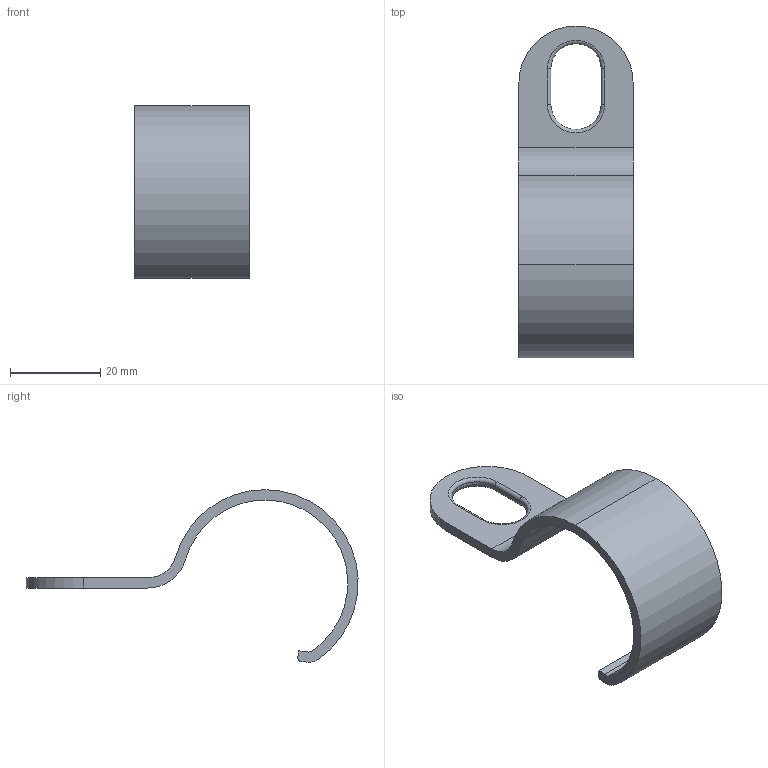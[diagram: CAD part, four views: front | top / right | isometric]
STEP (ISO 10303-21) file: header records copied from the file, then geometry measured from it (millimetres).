
FILE_DESCRIPTION (( 'STEP AP214' ), '1' );
FILE_NAME ('21208.STEP', '2017-07-06T18:04:57', ( 'AIMCO' ), ( '' ), 'SwSTEP 2.0', 'SolidWorks 2017', '' );
FILE_SCHEMA (( 'AUTOMOTIVE_DESIGN' ));
Length unit declared in the file: inch
Products named in the file (1): 21208
Bounding box: 25.4 x 73.76 x 38.34 mm (x, y, z)
Volume: 6105 mm3; surface area: 6049.7 mm2
Topology: 1 solids, 1 shells, 31 faces, 79 edges, 50 vertices
Faces by surface type: cylinder 17, plane 9, torus 5
Entity records: 994 total; most frequent: DIRECTION 184, CARTESIAN_POINT 161, ORIENTED_EDGE 158, EDGE_CURVE 79, AXIS2_PLACEMENT_3D 73, VERTEX_POINT 50, CIRCLE 41, VECTOR 38
